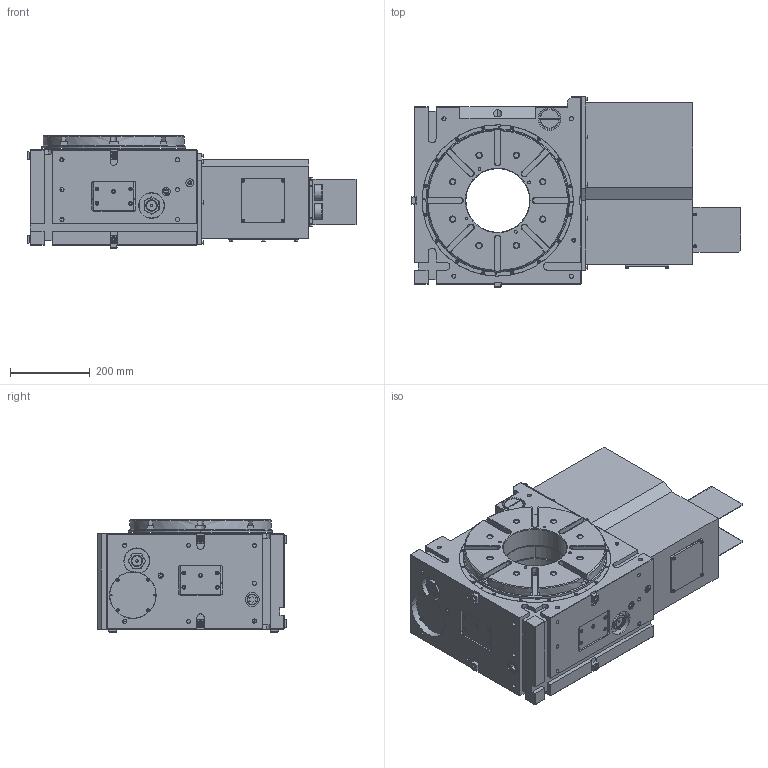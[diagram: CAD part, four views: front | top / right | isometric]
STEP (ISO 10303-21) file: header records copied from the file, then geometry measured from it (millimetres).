
FILE_DESCRIPTION (( 'STEP AP203' ), '1' );
FILE_NAME ('15121382-MDX353.STEP', '2020-11-25T22:48:21', ( '' ), ( '' ), 'SwSTEP 2.0', 'SolidWorks 2019', '' );
FILE_SCHEMA (( 'CONFIG_CONTROL_DESIGN' ));
Length unit declared in the file: millimetre
Products named in the file (1): 15121382-MDX353
Bounding box: 827 x 477 x 282 mm (x, y, z)
Surface area: 1674323.6 mm2 (no closed solid volume)
Topology: 0 solids, 145 shells, 1560 faces, 4870 edges, 3427 vertices
Faces by surface type: plane 814, cylinder 467, cone 261, torus 18
Entity records: 54417 total; most frequent: CARTESIAN_POINT 10274, DIRECTION 9643, ORIENTED_EDGE 7751, EDGE_CURVE 4870, VERTEX_POINT 3427, AXIS2_PLACEMENT_3D 3290, VECTOR 3063, LINE 3063
